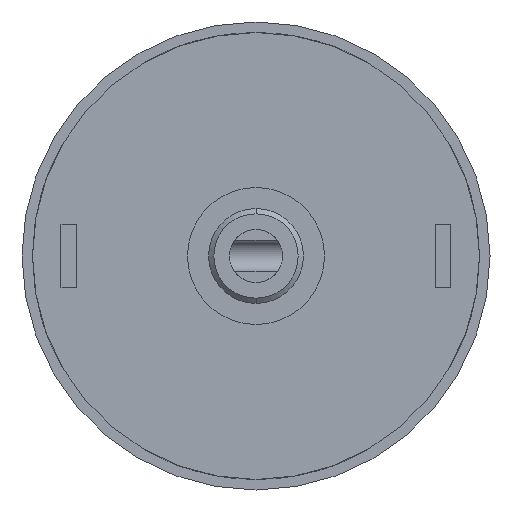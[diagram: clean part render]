
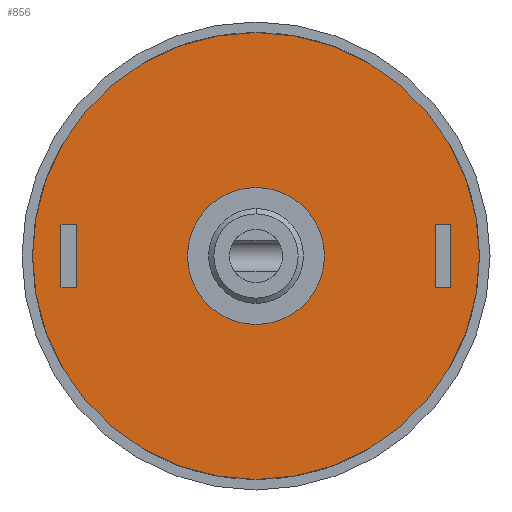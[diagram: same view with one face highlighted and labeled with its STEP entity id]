
A CAD part, front view. The second image highlights one B-rep face of the part: STEP entity #856.
In plain terms, the highlighted planar face has unit normal (0, -1, 0).
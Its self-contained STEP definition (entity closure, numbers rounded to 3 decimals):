
#139 = ORIENTED_EDGE ( 'NONE', *, *, #890, .F. ) ;
#140 = EDGE_CURVE ( 'NONE', #488, #478, #1122, .T. ) ;
#141 = EDGE_LOOP ( 'NONE', ( #548, #194 ) ) ;
#170 = ORIENTED_EDGE ( 'NONE', *, *, #344, .F. ) ;
#189 = EDGE_LOOP ( 'NONE', ( #170, #195 ) ) ;
#194 = ORIENTED_EDGE ( 'NONE', *, *, #481, .F. ) ;
#195 = ORIENTED_EDGE ( 'NONE', *, *, #759, .F. ) ;
#278 = ORIENTED_EDGE ( 'NONE', *, *, #668, .F. ) ;
#344 = EDGE_CURVE ( 'NONE', #517, #518, #3461, .T. ) ;
#478 = VERTEX_POINT ( 'NONE', #1779 ) ;
#481 = EDGE_CURVE ( 'NONE', #478, #488, #1775, .T. ) ;
#488 = VERTEX_POINT ( 'NONE', #2118 ) ;
#517 = VERTEX_POINT ( 'NONE', #1987 ) ;
#518 = VERTEX_POINT ( 'NONE', #1986 ) ;
#547 = ORIENTED_EDGE ( 'NONE', *, *, #675, .F. ) ;
#548 = ORIENTED_EDGE ( 'NONE', *, *, #140, .F. ) ;
#665 = VERTEX_POINT ( 'NONE', #2288 ) ;
#668 = EDGE_CURVE ( 'NONE', #665, #868, #2207, .T. ) ;
#675 = EDGE_CURVE ( 'NONE', #883, #665, #2004, .T. ) ;
#759 = EDGE_CURVE ( 'NONE', #518, #517, #2318, .T. ) ;
#853 = VERTEX_POINT ( 'NONE', #2750 ) ;
#856 = ADVANCED_FACE ( 'NONE', ( #2736, #2660, #2664, #2652 ), #2735, .F. ) ;
#857 = ORIENTED_EDGE ( 'NONE', *, *, #998, .F. ) ;
#858 = EDGE_LOOP ( 'NONE', ( #859, #278, #547, #139 ) ) ;
#859 = ORIENTED_EDGE ( 'NONE', *, *, #1026, .F. ) ;
#860 = ORIENTED_EDGE ( 'NONE', *, *, #1041, .F. ) ;
#868 = VERTEX_POINT ( 'NONE', #2804 ) ;
#872 = VERTEX_POINT ( 'NONE', #2806 ) ;
#883 = VERTEX_POINT ( 'NONE', #2760 ) ;
#890 = EDGE_CURVE ( 'NONE', #872, #883, #2632, .T. ) ;
#998 = EDGE_CURVE ( 'NONE', #1062, #1004, #2679, .T. ) ;
#1003 = EDGE_CURVE ( 'NONE', #1004, #853, #2685, .T. ) ;
#1004 = VERTEX_POINT ( 'NONE', #2680 ) ;
#1025 = ORIENTED_EDGE ( 'NONE', *, *, #1059, .F. ) ;
#1026 = EDGE_CURVE ( 'NONE', #868, #872, #2984, .T. ) ;
#1041 = EDGE_CURVE ( 'NONE', #1049, #1062, #2985, .T. ) ;
#1049 = VERTEX_POINT ( 'NONE', #2986 ) ;
#1051 = EDGE_LOOP ( 'NONE', ( #1025, #1053, #857, #860 ) ) ;
#1053 = ORIENTED_EDGE ( 'NONE', *, *, #1003, .F. ) ;
#1059 = EDGE_CURVE ( 'NONE', #853, #1049, #2879, .T. ) ;
#1062 = VERTEX_POINT ( 'NONE', #2883 ) ;
#1116 = CARTESIAN_POINT ( 'NONE',  ( 0., 5.953, 0. ) ) ;
#1122 = CIRCLE ( 'NONE', #1224, 6.5 ) ;
#1222 = DIRECTION ( 'NONE',  ( 0., 0., 1. ) ) ;
#1223 = DIRECTION ( 'NONE',  ( 0., -1., 0. ) ) ;
#1224 = AXIS2_PLACEMENT_3D ( 'NONE', #1116, #1223, #1222 ) ;
#1769 = DIRECTION ( 'NONE',  ( 0., 0., 1. ) ) ;
#1770 = DIRECTION ( 'NONE',  ( 0., -1., 0. ) ) ;
#1771 = AXIS2_PLACEMENT_3D ( 'NONE', #1783, #1770, #1769 ) ;
#1775 = CIRCLE ( 'NONE', #1771, 6.5 ) ;
#1779 = CARTESIAN_POINT ( 'NONE',  ( 0., 5.953, -6.5 ) ) ;
#1783 = CARTESIAN_POINT ( 'NONE',  ( 0., 5.953, 0. ) ) ;
#1986 = CARTESIAN_POINT ( 'NONE',  ( 0., 5.953, -21.2 ) ) ;
#1987 = CARTESIAN_POINT ( 'NONE',  ( 0., 5.953, 21.2 ) ) ;
#2003 = CARTESIAN_POINT ( 'NONE',  ( 17., 5.953, 0. ) ) ;
#2004 = LINE ( 'NONE', #2003, #2018 ) ;
#2017 = DIRECTION ( 'NONE',  ( 0., 0., -1. ) ) ;
#2018 = VECTOR ( 'NONE', #2017, 1000. ) ;
#2118 = CARTESIAN_POINT ( 'NONE',  ( 0., 5.953, 6.5 ) ) ;
#2204 = DIRECTION ( 'NONE',  ( 1., 0., 0. ) ) ;
#2205 = VECTOR ( 'NONE', #2204, 1000. ) ;
#2206 = CARTESIAN_POINT ( 'NONE',  ( 17., 5.953, -3. ) ) ;
#2207 = LINE ( 'NONE', #2206, #2205 ) ;
#2288 = CARTESIAN_POINT ( 'NONE',  ( 17., 5.953, -3. ) ) ;
#2310 = DIRECTION ( 'NONE',  ( 0., 0., 1. ) ) ;
#2311 = DIRECTION ( 'NONE',  ( 0., 1., 0. ) ) ;
#2312 = AXIS2_PLACEMENT_3D ( 'NONE', #2444, #2311, #2310 ) ;
#2318 = CIRCLE ( 'NONE', #2312, 21.2 ) ;
#2444 = CARTESIAN_POINT ( 'NONE',  ( 0., 5.953, 0. ) ) ;
#2629 = DIRECTION ( 'NONE',  ( -1., 0., 0. ) ) ;
#2630 = VECTOR ( 'NONE', #2629, 1000. ) ;
#2631 = CARTESIAN_POINT ( 'NONE',  ( 18.5, 5.953, 3. ) ) ;
#2632 = LINE ( 'NONE', #2631, #2630 ) ;
#2646 = AXIS2_PLACEMENT_3D ( 'NONE', #2659, #2739, #2807 ) ;
#2652 = FACE_OUTER_BOUND ( 'NONE', #189, .T. ) ;
#2659 = CARTESIAN_POINT ( 'NONE',  ( 0., 5.953, 0. ) ) ;
#2660 = FACE_BOUND ( 'NONE', #858, .T. ) ;
#2664 = FACE_BOUND ( 'NONE', #141, .T. ) ;
#2676 = DIRECTION ( 'NONE',  ( 0., 0., 1. ) ) ;
#2677 = VECTOR ( 'NONE', #2676, 1000. ) ;
#2678 = CARTESIAN_POINT ( 'NONE',  ( -17., 5.953, 0. ) ) ;
#2679 = LINE ( 'NONE', #2678, #2677 ) ;
#2680 = CARTESIAN_POINT ( 'NONE',  ( -17., 5.953, 3. ) ) ;
#2685 = LINE ( 'NONE', #2758, #2779 ) ;
#2735 = PLANE ( 'NONE',  #2646 ) ;
#2736 = FACE_BOUND ( 'NONE', #1051, .T. ) ;
#2739 = DIRECTION ( 'NONE',  ( 0., 1., 0. ) ) ;
#2750 = CARTESIAN_POINT ( 'NONE',  ( -18.5, 5.953, 3. ) ) ;
#2758 = CARTESIAN_POINT ( 'NONE',  ( -17., 5.953, 3. ) ) ;
#2760 = CARTESIAN_POINT ( 'NONE',  ( 17., 5.953, 3. ) ) ;
#2778 = DIRECTION ( 'NONE',  ( -1., 0., 0. ) ) ;
#2779 = VECTOR ( 'NONE', #2778, 1000. ) ;
#2804 = CARTESIAN_POINT ( 'NONE',  ( 18.5, 5.953, -3. ) ) ;
#2806 = CARTESIAN_POINT ( 'NONE',  ( 18.5, 5.953, 3. ) ) ;
#2807 = DIRECTION ( 'NONE',  ( 0., 0., 1. ) ) ;
#2827 = VECTOR ( 'NONE', #2982, 1000. ) ;
#2879 = LINE ( 'NONE', #2976, #2975 ) ;
#2883 = CARTESIAN_POINT ( 'NONE',  ( -17., 5.953, -3. ) ) ;
#2939 = DIRECTION ( 'NONE',  ( 1., 0., 0. ) ) ;
#2940 = VECTOR ( 'NONE', #2939, 1000. ) ;
#2941 = CARTESIAN_POINT ( 'NONE',  ( -18.5, 5.953, -3. ) ) ;
#2974 = DIRECTION ( 'NONE',  ( 0., 0., -1. ) ) ;
#2975 = VECTOR ( 'NONE', #2974, 1000. ) ;
#2976 = CARTESIAN_POINT ( 'NONE',  ( -18.5, 5.953, 0. ) ) ;
#2982 = DIRECTION ( 'NONE',  ( 0., 0., 1. ) ) ;
#2983 = CARTESIAN_POINT ( 'NONE',  ( 18.5, 5.953, 0. ) ) ;
#2984 = LINE ( 'NONE', #2983, #2827 ) ;
#2985 = LINE ( 'NONE', #2941, #2940 ) ;
#2986 = CARTESIAN_POINT ( 'NONE',  ( -18.5, 5.953, -3. ) ) ;
#3451 = CARTESIAN_POINT ( 'NONE',  ( 0., 5.953, 0. ) ) ;
#3458 = AXIS2_PLACEMENT_3D ( 'NONE', #3451, #3471, #3470 ) ;
#3461 = CIRCLE ( 'NONE', #3458, 21.2 ) ;
#3470 = DIRECTION ( 'NONE',  ( 0., 0., 1. ) ) ;
#3471 = DIRECTION ( 'NONE',  ( 0., 1., 0. ) ) ;
